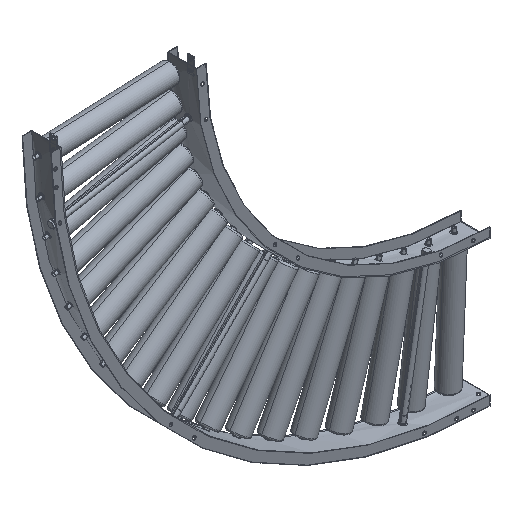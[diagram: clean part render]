
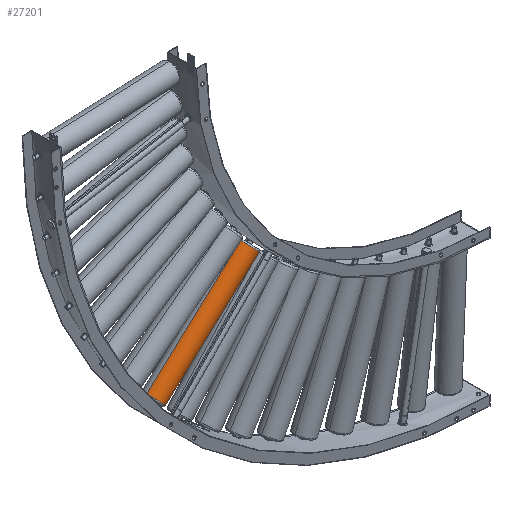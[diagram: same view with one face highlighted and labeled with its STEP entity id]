
A CAD part, isometric view. The second image highlights one B-rep face of the part: STEP entity #27201.
In plain terms, the highlighted cylindrical face has radius 30.25 mm (diameter 60.5 mm), a partial arc.
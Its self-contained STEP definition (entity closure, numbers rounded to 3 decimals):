
#430 = AXIS2_PLACEMENT_3D ( 'NONE', #8141, #5056, #24991 ) ;
#485 = CARTESIAN_POINT ( 'NONE',  ( -335.414, 46.699, -429.956 ) ) ;
#1853 = ORIENTED_EDGE ( 'NONE', *, *, #19476, .F. ) ;
#2095 = VERTEX_POINT ( 'NONE', #4816 ) ;
#2422 = VERTEX_POINT ( 'NONE', #19923 ) ;
#2598 = CARTESIAN_POINT ( 'NONE',  ( -355.85, 46.699, -407.654 ) ) ;
#3399 = CIRCLE ( 'NONE', #430, 30.25 ) ;
#4635 = CARTESIAN_POINT ( 'NONE',  ( -64.626, 46.699, -140.795 ) ) ;
#4816 = CARTESIAN_POINT ( 'NONE',  ( -68.312, 46.699, -144.173 ) ) ;
#5056 = DIRECTION ( 'NONE',  ( -0.737, 0., -0.676 ) ) ;
#5308 = LINE ( 'NONE', #19385, #25802 ) ;
#8141 = CARTESIAN_POINT ( 'NONE',  ( -47.876, 46.699, -166.476 ) ) ;
#8186 = VECTOR ( 'NONE', #25672, 1000. ) ;
#8662 = CIRCLE ( 'NONE', #23999, 30.25 ) ;
#8692 = FACE_OUTER_BOUND ( 'NONE', #12339, .T. ) ;
#9494 = CARTESIAN_POINT ( 'NONE',  ( -314.977, 46.699, -452.259 ) ) ;
#10326 = EDGE_CURVE ( 'NONE', #24441, #25954, #8662, .T. ) ;
#10670 = EDGE_CURVE ( 'NONE', #2095, #24441, #16526, .T. ) ;
#11007 = CYLINDRICAL_SURFACE ( 'NONE', #17386, 30.25 ) ;
#12339 = EDGE_LOOP ( 'NONE', ( #1853, #16830, #17488, #13127 ) ) ;
#13127 = ORIENTED_EDGE ( 'NONE', *, *, #10326, .T. ) ;
#13959 = EDGE_CURVE ( 'NONE', #2422, #2095, #3399, .T. ) ;
#16526 = LINE ( 'NONE', #4635, #8186 ) ;
#16830 = ORIENTED_EDGE ( 'NONE', *, *, #13959, .T. ) ;
#17386 = AXIS2_PLACEMENT_3D ( 'NONE', #18121, #20454, #29888 ) ;
#17488 = ORIENTED_EDGE ( 'NONE', *, *, #10670, .T. ) ;
#18121 = CARTESIAN_POINT ( 'NONE',  ( -44.189, 46.699, -163.098 ) ) ;
#19385 = CARTESIAN_POINT ( 'NONE',  ( -23.753, 46.699, -185.401 ) ) ;
#19476 = EDGE_CURVE ( 'NONE', #2422, #25954, #5308, .T. ) ;
#19659 = DIRECTION ( 'NONE',  ( 0.676, 0., -0.737 ) ) ;
#19923 = CARTESIAN_POINT ( 'NONE',  ( -27.439, 46.699, -188.779 ) ) ;
#20454 = DIRECTION ( 'NONE',  ( -0.737, 0., -0.676 ) ) ;
#22297 = DIRECTION ( 'NONE',  ( 0.737, 0., 0.676 ) ) ;
#23999 = AXIS2_PLACEMENT_3D ( 'NONE', #485, #22297, #19659 ) ;
#24441 = VERTEX_POINT ( 'NONE', #2598 ) ;
#24478 = DIRECTION ( 'NONE',  ( -0.737, 0., -0.676 ) ) ;
#24991 = DIRECTION ( 'NONE',  ( 0.676, 0., -0.737 ) ) ;
#25672 = DIRECTION ( 'NONE',  ( -0.737, 0., -0.676 ) ) ;
#25802 = VECTOR ( 'NONE', #24478, 1000. ) ;
#25954 = VERTEX_POINT ( 'NONE', #9494 ) ;
#27201 = ADVANCED_FACE ( 'NONE', ( #8692 ), #11007, .T. ) ;
#29888 = DIRECTION ( 'NONE',  ( -0.676, 0., 0.737 ) ) ;
